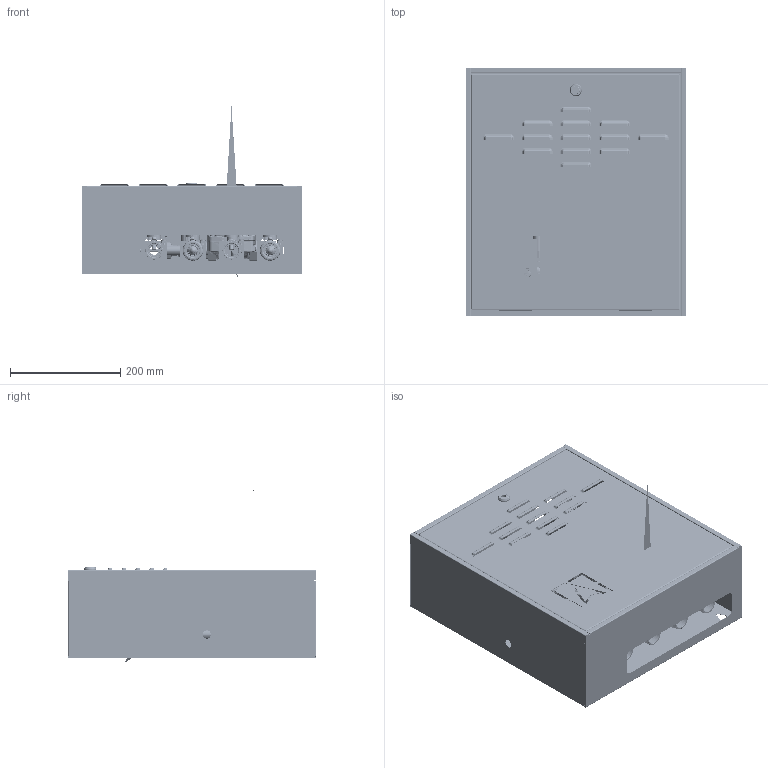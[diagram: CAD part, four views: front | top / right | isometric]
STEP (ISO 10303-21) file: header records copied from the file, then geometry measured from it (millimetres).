
FILE_DESCRIPTION (( 'STEP AP214' ), '1' );
FILE_NAME ('ACB930.STEP', '2022-07-14T09:04:07', ( '' ), ( '' ), 'SwSTEP 2.0', 'SolidWorks 2021', '' );
FILE_SCHEMA (( 'AUTOMOTIVE_DESIGN' ));
Length unit declared in the file: millimetre
Products named in the file (95): fondo-scatola-120x80; Base-pompa-Grundfos-UPM3-AUTO-Afriso-PL; serratura-coperchio-taglio-cacciavite; 20405011-1963-34-GIALLO_ASSIEME; 26000-Staffa-Fissaggio-Valvole-NovaZone-3-zone-59405113; Tubo-Ø18-Ritorno-Alta-NovaCond-53505147; 26000-Assieme-Cablaggio-NovaCond-Afriso-9990501XA_Nø1 Pompe - Nø1 Motore Mix; 26120-C-Sottogruppo-Di-Zona-DN20-Novacond-Afriso-99926003A; Tubo-Ø18-by-pass; Ventola check interna sfera; Inserto-Maniglia-1870-52005071; Vite-Autofilettante-Ø2.5x20-52105001; Tappo-3400-DN20-DN25-Lavorato-L2205340; Dado-gruppo-imar-ch37-d23-Lavorato-51505423; 26000-Cassetta-NovaCond-59405115; 90405017-1963-1DFx34F-GIALLO-MAN-NERA_ASSIEME; 3608-Asta-Regolazione-4-Vie-Lavorata-L0505608_STANDARD; Ponti-di-cablaggio-222-413-53805008; 3608-Raccordo-Lavorato-L1605608; 3608-Corpo-4-Vie-Lavorato-L0105608; Vite-1250-52110008; Sfera-1973-con check-23208005; Vite-M5x6-52110029; Guarnizione-840-34-ptfe-52705005; O-ring x sfera 1973 13.1x2.62; 1961-S-Portasonda-Ø6-Lavorato-30805032; coperchio-scatola-120x80; O-ring-2112-E70N01C_E70N01C; Guarnizione-Piana-483-1-52605483; 26000-Motore-con-Flangia-Afriso-PL-83005134_PER NOVAZONE; Seeger-Ø25-53105014; Termometro Afriso_D.50_L.20-Rosso-Azzurro-54705879-880_term-rosso; Corpo-1964-DN20-Lavorato-30105656; Clip-tubo-d18-53605423_D‚faut; Terminale-preisolato-CPKD508-Bianco-53805053; Corpo-1963-DN20-Lavorato-30105655; 26000-Scatola-Elettrica-120x80-Afriso-PL-99905000AC_01-Default; 26000-Piastrina-Collegamenti-Elettrici-NovaCond-Afriso-PL-59505400; Tubo-Ø18-Ritorno-Bassa-NovaCond-53505148_vista per disegno; check-dn-25-50109105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
Assembly tree (157 placements, depth 6):
  ACB930
    26120-C-Sottogruppo-Di-Zona-DN20-Novacond-Afriso-99926003A
      M0105608-3608-Miscelatrice-4-Vie-DN25_assieme per gruppo con by-pass
        3608-Corpo-4-Vie-Lavorato-L0105608
        3608-Asta-Regolazione-4-Vie-Lavorata-L0505608_STANDARD
        Guarnizione-3400-DN20-DN25-ptfe-52705340  x2
        O-ring-2031-HNBR-52905700  x2
        Tappo-3400-DN20-DN25-Lavorato-L2205340
        O-ring-2112-E70N01C_E70N01C
        Dado-3004-1-Lavorato-31505428
        check-dn-25-50109105
        Seeger-Ø25-53105014
        3608-Raccordo-Lavorato-L1605608
        O-ring-132-EPDM-N01C
      70405017-1963-1DFx34F-GIALLO-MAN-NERA_ASSIEME
        90405017-1963-1DFx34F-GIALLO-MAN-NERA_ASSIEME
          20405011-1963-34-GIALLO_ASSIEME
            Corpo-1963-DN20-Lavorato-30105655
            Sfera-300-34-Lavorata-33208005
            Guarnizione-840-34-ptfe-52705005  x2
            Asta-840-12-Unificata-30505300
            O-ring-2018-EPDM 70 N01C  x2
            Raccordo-840-34-Lavorato-31605312_Sabbiata
          maniglia-1870-1871_Nera
          Dado-Fissaggio-Maniglia-1870-A-31505091
          Inserto-Maniglia-1870-52005071
          Grano-M4x6-52110003
          1961-S-Portasonda-Ø6-Lavorato-30805032
        Anello-Elastico-553-S-1-53105253
        Dado-553-S-1-Lavorato-31505553
      90405018-1964-34-GIALLO-MAN-NERA_SENZA TERMOMETRO  x2
        20405012-1964-34-GIALLO_ASSIEME
          Corpo-1964-DN20-Lavorato-30105656
          Sfera-1973-con check-23208005
            Sfera-1973-34-Lavorata-33208065
            Stantuffo check interna sfera 1973
            Ventola check interna sfera
            O-ring x sfera 1973 13.1x2.62
            Molla check interna sfera 1973
          Guarnizione-840-34-ptfe-52705005  x2
          Asta-840-12-Unificata-30505300
          O-ring-2018-EPDM 70 N01C  x2
          Raccordo-1964-34-Lavorato-31605019
        Dado-Fissaggio-Maniglia-1870-A-31505091
        maniglia-1870-1871_Nera
        Inserto-Maniglia-1870-52005071
        Grano-M4x6-52110003
        1961-S-Portasonda-Ø6-Lavorato-30805032
      UPM3-AUTO-15-70-C-Lavoro-Afriso-PL-50105250
        Basamento-pompa-UPM3-15-70-ghisa
        Base-pompa-Grundfos-UPM3-AUTO-Afriso-PL
      Tubo-Ø18-Diretto-NovaCond-53505146_vista per disegno
        Tubo-Ø18-Diretto-NovaCond-53505146
        Dado-gruppo-imar-ch37-d23-Lavorato-51505423
        raccordo-34-per-tubo
        raccordo-34M-per-tubo-uscita
      90405016-1964-C-34-GIALLO-MAN-NERA_SENZA TERMOMETRO
        20405015-1964-C-34-GIALLO_ASSIEME
          Corpo-1964-DN20-Lavorato-30105656
          Sfera-300-34-Lavorata-33208005
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Bounding box: 400 x 450.2 x 313.05 mm (x, y, z)
Volume: 2326964.7 mm3; surface area: 2320008.3 mm2
Topology: 195 solids, 205 shells, 26278 faces, 65915 edges, 40777 vertices
Faces by surface type: plane 7805, bspline 6439, cylinder 5605, cone 5019, torus 741, sphere 669
Full cylindrical faces by diameter (mm): 0.2 x1
Entity records: 990695 total; most frequent: CARTESIAN_POINT 550053, ORIENTED_EDGE 102570, DIRECTION 71367, EDGE_CURVE 51285, VERTEX_POINT 31951, AXIS2_PLACEMENT_3D 26063, EDGE_LOOP 21226, ADVANCED_FACE 20173
